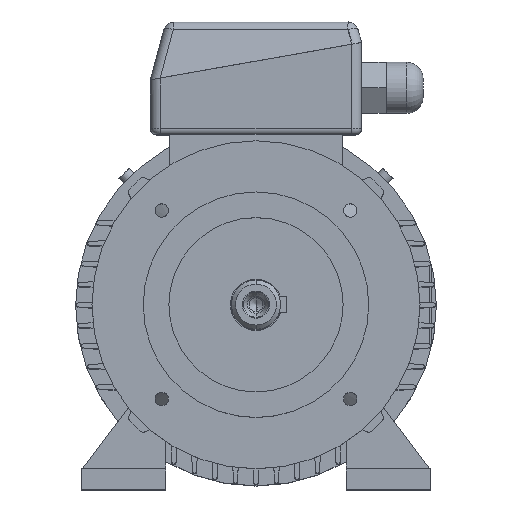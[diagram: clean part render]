
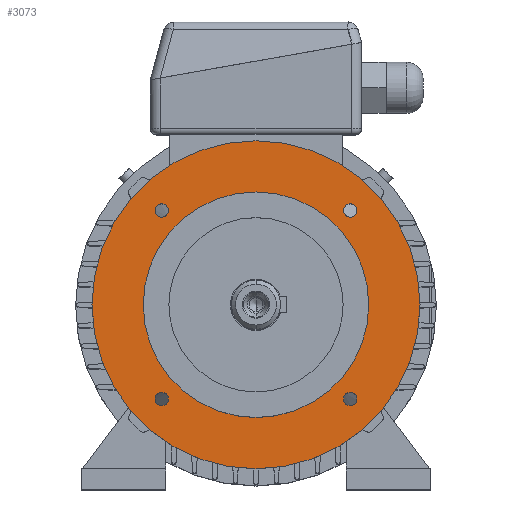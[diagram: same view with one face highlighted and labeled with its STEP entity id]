
A CAD part, top view. The second image highlights one B-rep face of the part: STEP entity #3073.
In plain terms, the highlighted planar face has unit normal (0, 0, 1).
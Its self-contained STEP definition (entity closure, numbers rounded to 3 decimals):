
#531 = CIRCLE ( 'NONE', #532, 3.25 ) ;
#532 = AXIS2_PLACEMENT_3D ( 'NONE', #533, #534, #535 ) ;
#533 = CARTESIAN_POINT ( 'NONE',  ( -45.962, 45.962, 40. ) ) ;
#534 = DIRECTION ( 'NONE',  ( 0., 0., 1. ) ) ;
#535 = DIRECTION ( 'NONE',  ( 1., 0., 0. ) ) ;
#1704 = CARTESIAN_POINT ( 'NONE',  ( 49.212, -45.962, 40. ) ) ;
#1867 = CIRCLE ( 'NONE', #1868, 3.25 ) ;
#1868 = AXIS2_PLACEMENT_3D ( 'NONE', #1871, #1872, #1873 ) ;
#1871 = CARTESIAN_POINT ( 'NONE',  ( 45.962, -45.962, 40. ) ) ;
#1872 = DIRECTION ( 'NONE',  ( 0., 0., 1. ) ) ;
#1873 = DIRECTION ( 'NONE',  ( 1., 0., 0. ) ) ;
#2396 = CARTESIAN_POINT ( 'NONE',  ( 42.712, -45.962, 40. ) ) ;
#2460 = CARTESIAN_POINT ( 'NONE',  ( 0., 55., 40. ) ) ;
#2518 = CARTESIAN_POINT ( 'NONE',  ( -42.712, -45.962, 40. ) ) ;
#2551 = CIRCLE ( 'NONE', #2552, 55. ) ;
#2552 = AXIS2_PLACEMENT_3D ( 'NONE', #2553, #2554, #2555 ) ;
#2553 = CARTESIAN_POINT ( 'NONE',  ( 0., 0., 40. ) ) ;
#2554 = DIRECTION ( 'NONE',  ( 0., 0., -1. ) ) ;
#2555 = DIRECTION ( 'NONE',  ( 0., 1., 0. ) ) ;
#2624 = CIRCLE ( 'NONE', #2625, 3.25 ) ;
#2625 = AXIS2_PLACEMENT_3D ( 'NONE', #2626, #2627, #2628 ) ;
#2626 = CARTESIAN_POINT ( 'NONE',  ( -45.962, -45.962, 40. ) ) ;
#2627 = DIRECTION ( 'NONE',  ( 0., 0., 1. ) ) ;
#2628 = DIRECTION ( 'NONE',  ( 1., 0., 0. ) ) ;
#2639 = EDGE_CURVE ( 'NONE', #3227, #3466, #8043, .T. ) ;
#2996 = CIRCLE ( 'NONE', #2997, 3.25 ) ;
#2997 = AXIS2_PLACEMENT_3D ( 'NONE', #3011, #3012, #3013 ) ;
#3011 = CARTESIAN_POINT ( 'NONE',  ( 45.962, 45.962, 40. ) ) ;
#3012 = DIRECTION ( 'NONE',  ( 0., 0., 1. ) ) ;
#3013 = DIRECTION ( 'NONE',  ( 1., 0., 0. ) ) ;
#3032 = CARTESIAN_POINT ( 'NONE',  ( 0., -55., 40. ) ) ;
#3073 = ADVANCED_FACE ( 'NONE', ( #8217, #8218, #8219, #8220, #8221, #8222 ), #8223, .T. ) ;
#3192 = CARTESIAN_POINT ( 'NONE',  ( -49.212, -45.962, 40. ) ) ;
#3227 = VERTEX_POINT ( 'NONE', #8338 ) ;
#3466 = VERTEX_POINT ( 'NONE', #8426 ) ;
#3507 = EDGE_CURVE ( 'NONE', #9035, #7790, #8464, .T. ) ;
#3589 = VERTEX_POINT ( 'NONE', #8484 ) ;
#3713 = EDGE_CURVE ( 'NONE', #3466, #3227, #8535, .T. ) ;
#3832 = EDGE_CURVE ( 'NONE', #4376, #3589, #8586, .T. ) ;
#4376 = VERTEX_POINT ( 'NONE', #9066 ) ;
#5149 = ORIENTED_EDGE ( 'NONE', *, *, #6689, .F. ) ;
#5257 = EDGE_CURVE ( 'NONE', #6629, #7660, #10918, .T. ) ;
#5346 = ORIENTED_EDGE ( 'NONE', *, *, #5257, .F. ) ;
#5473 = EDGE_LOOP ( 'NONE', ( #5346, #5149 ) ) ;
#5531 = ORIENTED_EDGE ( 'NONE', *, *, #8205, .F. ) ;
#5654 = EDGE_CURVE ( 'NONE', #7953, #9382, #12375, .T. ) ;
#5755 = ORIENTED_EDGE ( 'NONE', *, *, #5654, .F. ) ;
#5896 = EDGE_LOOP ( 'NONE', ( #5755, #5531 ) ) ;
#5954 = ORIENTED_EDGE ( 'NONE', *, *, #3832, .F. ) ;
#6088 = EDGE_CURVE ( 'NONE', #3589, #4376, #531, .T. ) ;
#6188 = ORIENTED_EDGE ( 'NONE', *, *, #6088, .F. ) ;
#6303 = EDGE_LOOP ( 'NONE', ( #6188, #5954 ) ) ;
#6403 = ORIENTED_EDGE ( 'NONE', *, *, #2639, .F. ) ;
#6526 = ORIENTED_EDGE ( 'NONE', *, *, #3713, .F. ) ;
#6629 = VERTEX_POINT ( 'NONE', #1704 ) ;
#6655 = EDGE_LOOP ( 'NONE', ( #6526, #6403 ) ) ;
#6689 = EDGE_CURVE ( 'NONE', #7660, #6629, #1867, .T. ) ;
#6793 = ORIENTED_EDGE ( 'NONE', *, *, #3507, .T. ) ;
#7373 = ORIENTED_EDGE ( 'NONE', *, *, #8036, .T. ) ;
#7660 = VERTEX_POINT ( 'NONE', #2396 ) ;
#7790 = VERTEX_POINT ( 'NONE', #2460 ) ;
#7953 = VERTEX_POINT ( 'NONE', #2518 ) ;
#8036 = EDGE_CURVE ( 'NONE', #7790, #9035, #2551, .T. ) ;
#8043 = CIRCLE ( 'NONE', #8044, 80. ) ;
#8044 = AXIS2_PLACEMENT_3D ( 'NONE', #8045, #8046, #8047 ) ;
#8045 = CARTESIAN_POINT ( 'NONE',  ( 0., 0., 40. ) ) ;
#8046 = DIRECTION ( 'NONE',  ( 0., 0., -1. ) ) ;
#8047 = DIRECTION ( 'NONE',  ( 0., 1., 0. ) ) ;
#8146 = EDGE_LOOP ( 'NONE', ( #7373, #6793 ) ) ;
#8205 = EDGE_CURVE ( 'NONE', #9382, #7953, #2624, .T. ) ;
#8217 = FACE_BOUND ( 'NONE', #6303, .T. ) ;
#8218 = FACE_BOUND ( 'NONE', #5896, .T. ) ;
#8219 = FACE_BOUND ( 'NONE', #5473, .T. ) ;
#8220 = FACE_BOUND ( 'NONE', #9984, .T. ) ;
#8221 = FACE_BOUND ( 'NONE', #8146, .T. ) ;
#8222 = FACE_OUTER_BOUND ( 'NONE', #6655, .T. ) ;
#8223 = PLANE ( 'NONE',  #8227 ) ;
#8227 = AXIS2_PLACEMENT_3D ( 'NONE', #8228, #8229, #8230 ) ;
#8228 = CARTESIAN_POINT ( 'NONE',  ( 0., 80., 40. ) ) ;
#8229 = DIRECTION ( 'NONE',  ( 0., 0., 1. ) ) ;
#8230 = DIRECTION ( 'NONE',  ( 0., -1., 0. ) ) ;
#8338 = CARTESIAN_POINT ( 'NONE',  ( 0., -80., 40. ) ) ;
#8412 = ORIENTED_EDGE ( 'NONE', *, *, #11546, .F. ) ;
#8426 = CARTESIAN_POINT ( 'NONE',  ( 0., 80., 40. ) ) ;
#8464 = CIRCLE ( 'NONE', #8465, 55. ) ;
#8465 = AXIS2_PLACEMENT_3D ( 'NONE', #8466, #8467, #8468 ) ;
#8466 = CARTESIAN_POINT ( 'NONE',  ( 0., 0., 40. ) ) ;
#8467 = DIRECTION ( 'NONE',  ( 0., 0., -1. ) ) ;
#8468 = DIRECTION ( 'NONE',  ( 0., 1., 0. ) ) ;
#8484 = CARTESIAN_POINT ( 'NONE',  ( -42.712, 45.962, 40. ) ) ;
#8535 = CIRCLE ( 'NONE', #8536, 80. ) ;
#8536 = AXIS2_PLACEMENT_3D ( 'NONE', #8537, #8538, #8539 ) ;
#8537 = CARTESIAN_POINT ( 'NONE',  ( 0., 0., 40. ) ) ;
#8538 = DIRECTION ( 'NONE',  ( 0., 0., -1. ) ) ;
#8539 = DIRECTION ( 'NONE',  ( 0., 1., 0. ) ) ;
#8586 = CIRCLE ( 'NONE', #8587, 3.25 ) ;
#8587 = AXIS2_PLACEMENT_3D ( 'NONE', #8588, #8589, #8590 ) ;
#8588 = CARTESIAN_POINT ( 'NONE',  ( -45.962, 45.962, 40. ) ) ;
#8589 = DIRECTION ( 'NONE',  ( 0., 0., 1. ) ) ;
#8590 = DIRECTION ( 'NONE',  ( 1., 0., 0. ) ) ;
#8994 = EDGE_CURVE ( 'NONE', #11298, #12537, #2996, .T. ) ;
#9035 = VERTEX_POINT ( 'NONE', #3032 ) ;
#9066 = CARTESIAN_POINT ( 'NONE',  ( -49.212, 45.962, 40. ) ) ;
#9382 = VERTEX_POINT ( 'NONE', #3192 ) ;
#9403 = ORIENTED_EDGE ( 'NONE', *, *, #8994, .F. ) ;
#9984 = EDGE_LOOP ( 'NONE', ( #9403, #8412 ) ) ;
#10918 = CIRCLE ( 'NONE', #10919, 3.25 ) ;
#10919 = AXIS2_PLACEMENT_3D ( 'NONE', #10920, #10921, #10922 ) ;
#10920 = CARTESIAN_POINT ( 'NONE',  ( 45.962, -45.962, 40. ) ) ;
#10921 = DIRECTION ( 'NONE',  ( 0., 0., 1. ) ) ;
#10922 = DIRECTION ( 'NONE',  ( 1., 0., 0. ) ) ;
#11137 = CARTESIAN_POINT ( 'NONE',  ( 49.212, 45.962, 40. ) ) ;
#11298 = VERTEX_POINT ( 'NONE', #11137 ) ;
#11382 = CIRCLE ( 'NONE', #11383, 3.25 ) ;
#11383 = AXIS2_PLACEMENT_3D ( 'NONE', #11384, #11385, #11386 ) ;
#11384 = CARTESIAN_POINT ( 'NONE',  ( 45.962, 45.962, 40. ) ) ;
#11385 = DIRECTION ( 'NONE',  ( 0., 0., 1. ) ) ;
#11386 = DIRECTION ( 'NONE',  ( 1., 0., 0. ) ) ;
#11546 = EDGE_CURVE ( 'NONE', #12537, #11298, #11382, .T. ) ;
#12239 = CARTESIAN_POINT ( 'NONE',  ( 42.712, 45.962, 40. ) ) ;
#12375 = CIRCLE ( 'NONE', #12376, 3.25 ) ;
#12376 = AXIS2_PLACEMENT_3D ( 'NONE', #12377, #12378, #12379 ) ;
#12377 = CARTESIAN_POINT ( 'NONE',  ( -45.962, -45.962, 40. ) ) ;
#12378 = DIRECTION ( 'NONE',  ( 0., 0., 1. ) ) ;
#12379 = DIRECTION ( 'NONE',  ( 1., 0., 0. ) ) ;
#12537 = VERTEX_POINT ( 'NONE', #12239 ) ;
